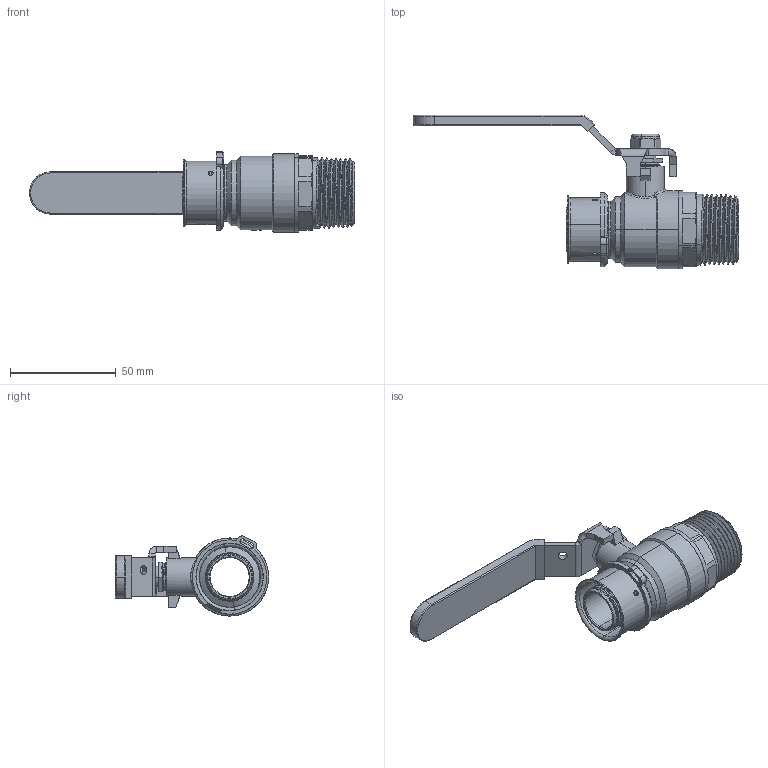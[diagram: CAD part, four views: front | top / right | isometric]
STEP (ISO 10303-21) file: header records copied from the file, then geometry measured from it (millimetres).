
FILE_DESCRIPTION (( 'STEP AP203' ), '1' );
FILE_NAME ('150-735G.STEP', '2026-05-15T01:58:10', ( '' ), ( '' ), 'SwSTEP 2.0', 'SolidWorks 2014', '' );
FILE_SCHEMA (( 'CONFIG_CONTROL_DESIGN' ));
Length unit declared in the file: millimetre
Products named in the file (15): 7x1.5(O型圈); M8滅侂蹟譫; M14ѹñ; 150-735G; PMN100ｸﾇ; 31球; 3347塑料限位圈100; 忒梟075; 26密封圈; 13沓蹋; 33概裝; 笢瘍呿杶; 笢瘍鍼踢忒梟1012; 100詩杶; 100概极
Assembly tree (15 placements, depth 3):
  150-735G
    100概极
    13沓蹋
    33概裝
    7x1.5(O型圈)
    M14ѹñ
    忒梟075
      笢瘍鍼踢忒梟1012
      笢瘍呿杶
    31球
    26密封圈  x2
    M8滅侂蹟譫
    3347塑料限位圈100
    100詩杶
    PMN100ｸﾇ
Bounding box: 153.91 x 72.63 x 37.96 mm (x, y, z)
Volume: 50077.1 mm3; surface area: 49345.5 mm2
Topology: 14 solids, 14 shells, 659 faces, 1622 edges, 1006 vertices
Faces by surface type: cylinder 217, plane 175, cone 127, bspline 72, torus 62, sphere 6
Entity records: 42953 total; most frequent: CARTESIAN_POINT 26720, ORIENTED_EDGE 3188, DIRECTION 2969, EDGE_CURVE 1594, AXIS2_PLACEMENT_3D 1198, VERTEX_POINT 990, EDGE_LOOP 696, FACE_OUTER_BOUND 647
